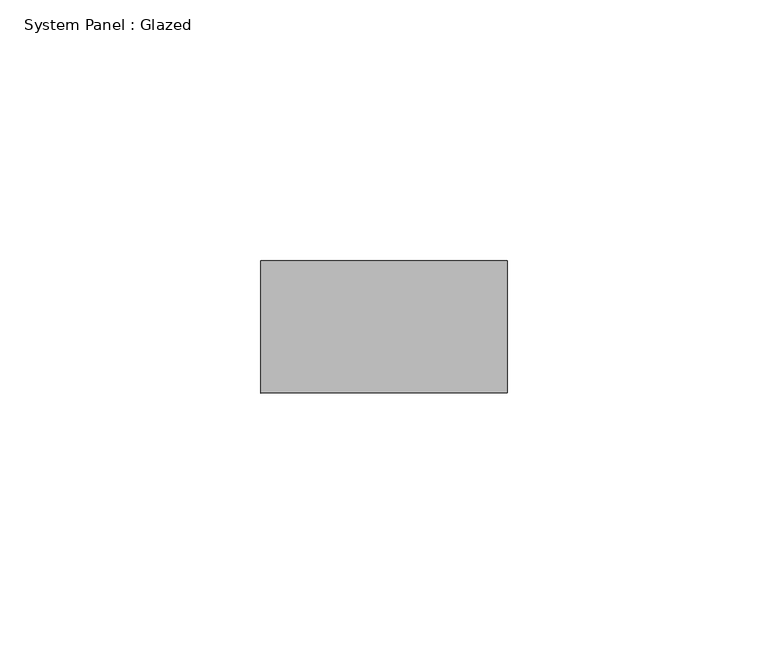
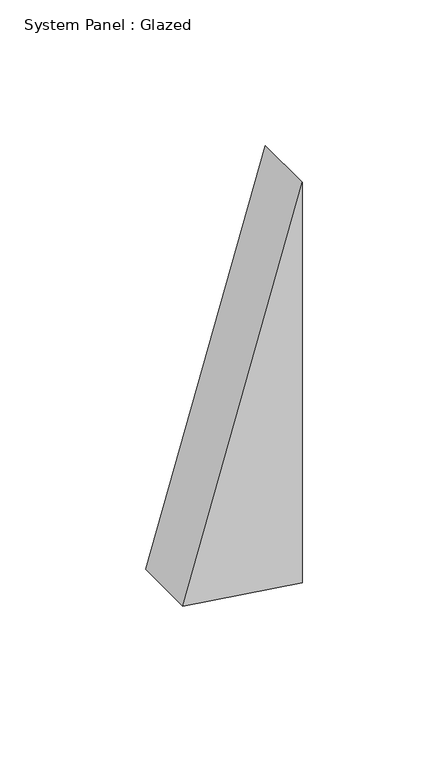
"""IFC4 building model written with IfcOpenShell, lengths in millimetres: plate geometry, System Panel : Glazed."""

from ifc_helpers import new_model, si_unit, frame, origin, place, context, project, spatial, polyline, outline, extrude, source, transform, mapped, element, save


def system_panel_glazed_f7af2f91(model_context):
    return source(origin(), model_context, "Body", "SweptSolid", [
        extrude(outline(polyline([(6.8233979, -23.6846133), (0.0, 23.6843813), (167.8344431, 23.6846133), (6.8233979, -23.6846133)])), frame((0.0, 19.05, 0.0), z_axis=(0.0, 1.0, 0.0), x_axis=(0.0, 0.0, 1.0)), (0.0, 0.0, 1.0), 25.4),
    ])


if __name__ == "__main__":
    model = new_model("IFC4")
    model_context = context("Model", 3, world=origin())
    ifc_project = project(units=[si_unit("LENGTHUNIT", "METRE", prefix="MILLI")], contexts=[model_context])
    site = spatial("IfcSite", under=ifc_project)
    building = spatial("IfcBuilding", under=site)
    placement = place(None, origin())
    system_panel_glazed_shape = system_panel_glazed_f7af2f91(model_context)
    element("IfcPlate", 1, ObjectType="System Panel : Glazed", at=placement, inside=building, context=model_context, shape_type="MappedRepresentation", body=[
        mapped(system_panel_glazed_shape, transform((0.0, 0.0, 0.0), x_axis=(1.0, 0.0, 0.0), y_axis=(0.0, 1.0, 0.0), z_axis=(0.0, 0.0, 1.0))),
    ])
    save(model, "model.ifc")
